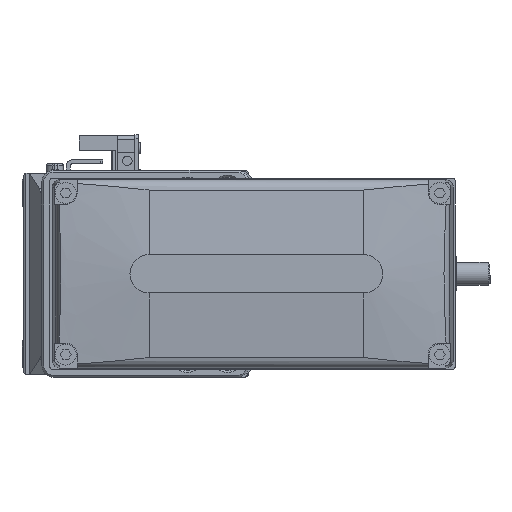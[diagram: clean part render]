
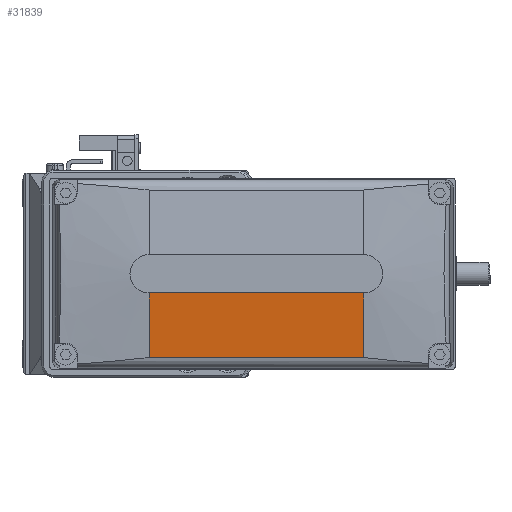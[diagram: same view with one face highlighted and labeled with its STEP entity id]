
A CAD part, left-side view. The second image highlights one B-rep face of the part: STEP entity #31839.
In plain terms, the highlighted planar face has unit normal (-0.996, 0, -0.087).
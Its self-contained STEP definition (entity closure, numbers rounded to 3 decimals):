
#113 = ORIENTED_EDGE ( 'NONE', *, *, #28653, .T. ) ;
#1286 = DIRECTION ( 'NONE',  ( 0., 1., 0. ) ) ;
#1425 = CARTESIAN_POINT ( 'NONE',  ( -48.525, 128., -21.861 ) ) ;
#2473 = DIRECTION ( 'NONE',  ( -0.087, 0., 0.996 ) ) ;
#2730 = VERTEX_POINT ( 'NONE', #16959 ) ;
#5608 = LINE ( 'NONE', #31668, #12186 ) ;
#6277 = VERTEX_POINT ( 'NONE', #7935 ) ;
#6446 = DIRECTION ( 'NONE',  ( 0., 1., 0. ) ) ;
#6751 = VERTEX_POINT ( 'NONE', #23368 ) ;
#7935 = CARTESIAN_POINT ( 'NONE',  ( -50., -28., -5. ) ) ;
#8331 = DIRECTION ( 'NONE',  ( -0.996, 0., -0.087 ) ) ;
#10821 = LINE ( 'NONE', #14510, #14717 ) ;
#10949 = CARTESIAN_POINT ( 'NONE',  ( -50., 128., -5. ) ) ;
#11041 = ORIENTED_EDGE ( 'NONE', *, *, #16182, .F. ) ;
#12186 = VECTOR ( 'NONE', #6446, 1000. ) ;
#12672 = FACE_OUTER_BOUND ( 'NONE', #16270, .T. ) ;
#12932 = CARTESIAN_POINT ( 'NONE',  ( 43606.406, -28., -499000. ) ) ;
#13265 = AXIS2_PLACEMENT_3D ( 'NONE', #10949, #8331, #2473 ) ;
#14510 = CARTESIAN_POINT ( 'NONE',  ( 43606.406, 28., -499000. ) ) ;
#14717 = VECTOR ( 'NONE', #17328, 1000. ) ;
#16182 = EDGE_CURVE ( 'NONE', #2730, #22120, #25582, .T. ) ;
#16270 = EDGE_LOOP ( 'NONE', ( #31140, #11041, #23075, #113 ) ) ;
#16554 = EDGE_CURVE ( 'NONE', #6277, #2730, #23311, .T. ) ;
#16959 = CARTESIAN_POINT ( 'NONE',  ( -48.525, -28., -21.861 ) ) ;
#17328 = DIRECTION ( 'NONE',  ( -0.087, 0., 0.996 ) ) ;
#21269 = DIRECTION ( 'NONE',  ( 0.087, 0., -0.996 ) ) ;
#22120 = VERTEX_POINT ( 'NONE', #30508 ) ;
#23075 = ORIENTED_EDGE ( 'NONE', *, *, #16554, .F. ) ;
#23311 = LINE ( 'NONE', #12932, #32469 ) ;
#23368 = CARTESIAN_POINT ( 'NONE',  ( -50., 28., -5. ) ) ;
#23847 = EDGE_CURVE ( 'NONE', #22120, #6751, #10821, .T. ) ;
#25161 = VECTOR ( 'NONE', #1286, 1000. ) ;
#25582 = LINE ( 'NONE', #1425, #25161 ) ;
#28653 = EDGE_CURVE ( 'NONE', #6277, #6751, #5608, .T. ) ;
#30508 = CARTESIAN_POINT ( 'NONE',  ( -48.525, 28., -21.861 ) ) ;
#30841 = PLANE ( 'NONE',  #13265 ) ;
#31140 = ORIENTED_EDGE ( 'NONE', *, *, #23847, .F. ) ;
#31668 = CARTESIAN_POINT ( 'NONE',  ( -50., 128., -5. ) ) ;
#31839 = ADVANCED_FACE ( 'NONE', ( #12672 ), #30841, .T. ) ;
#32469 = VECTOR ( 'NONE', #21269, 1000. ) ;
